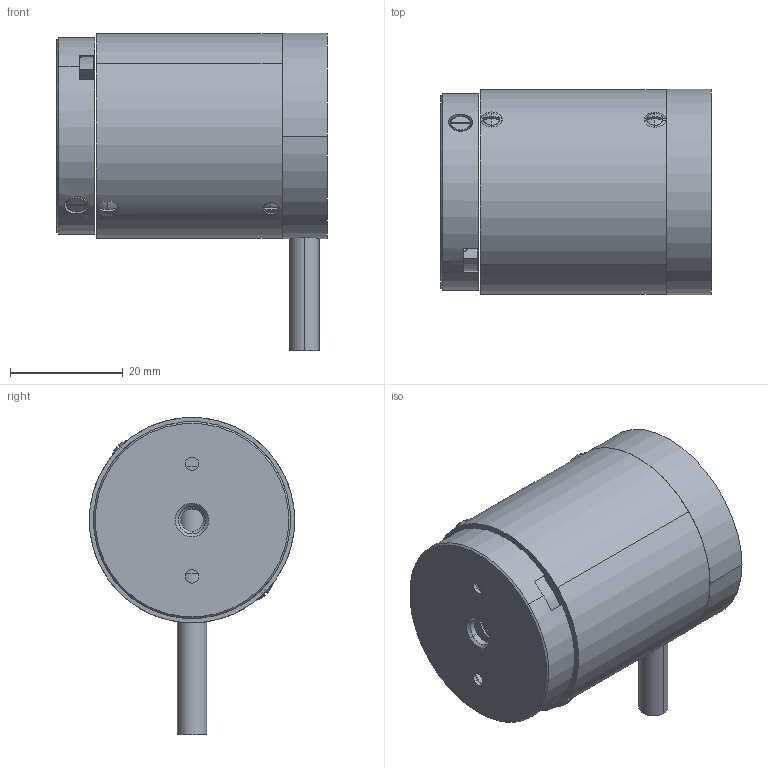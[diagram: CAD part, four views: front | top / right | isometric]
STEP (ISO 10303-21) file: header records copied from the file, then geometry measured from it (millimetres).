
FILE_DESCRIPTION (( 'STEP AP214' ), '1' );
FILE_NAME ('ﾋﾈﾐ-337ﾀ.STEP', '2017-05-23T08:49:59', ( '' ), ( '' ), 'SwSTEP 2.0', 'SolidWorks 2013', '' );
FILE_SCHEMA (( 'AUTOMOTIVE_DESIGN' ));
Length unit declared in the file: millimetre
Products named in the file (1): ﾋﾈﾐ-337ﾀ
Bounding box: 48 x 36.5 x 56.35 mm (x, y, z)
Surface area: 10057.4 mm2 (no closed solid volume)
Topology: 0 solids, 13 shells, 106 faces, 326 edges, 228 vertices
Faces by surface type: cylinder 32, plane 30, sphere 16, cone 14, bspline 10, torus 4
Entity records: 10024 total; most frequent: CARTESIAN_POINT 6054, DIRECTION 580, ORIENTED_EDGE 504, EDGE_CURVE 326, AXIS2_PLACEMENT_3D 245, VERTEX_POINT 228, CIRCLE 148, EDGE_LOOP 127
